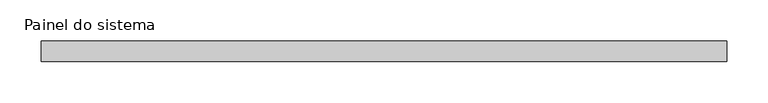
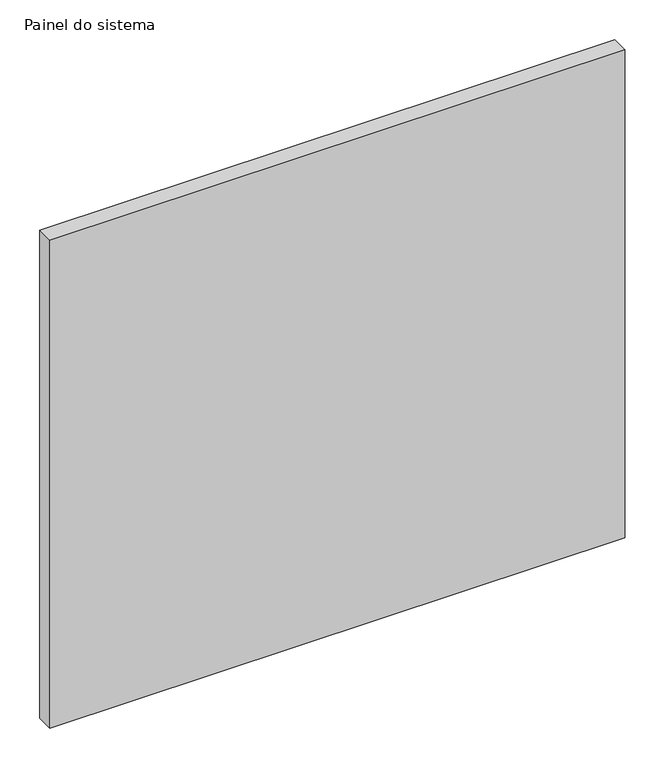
"""IFC4 building model written with IfcOpenShell, lengths in millimetres: plate geometry, Painel do sistema : Envidraçado."""

from ifc_helpers import new_model, si_unit, origin, origin_with_axes, place, context, project, spatial, polyline, outline, extrude, source, transform, mapped, element, save


def painel_do_sistema_cd84a87b(model_context):
    return source(origin(), model_context, "Body", "SweptSolid", [
        extrude(outline(polyline([(415.0, 24.5), (-415.0, 24.5), (-415.0, 49.5), (415.0, 49.5), (415.0, 24.5)])), origin_with_axes(), (0.0, 0.0, 1.0), 745.0),
    ])


if __name__ == "__main__":
    model = new_model("IFC4")
    model_context = context("Model", 3, world=origin())
    ifc_project = project(units=[si_unit("LENGTHUNIT", "METRE", prefix="MILLI")], contexts=[model_context])
    site = spatial("IfcSite", under=ifc_project)
    building = spatial("IfcBuilding", under=site)
    placement = place(None, origin())
    painel_do_sistema_shape = painel_do_sistema_cd84a87b(model_context)
    element("IfcPlate", 1, ObjectType="Painel do sistema : Envidraçado", at=placement, inside=building, context=model_context, shape_type="MappedRepresentation", body=[
        mapped(painel_do_sistema_shape, transform((0.0, 0.0, 0.0), x_axis=(1.0, 0.0, 0.0), y_axis=(0.0, 1.0, 0.0), z_axis=(0.0, 0.0, 1.0))),
    ])
    save(model, "model.ifc")
